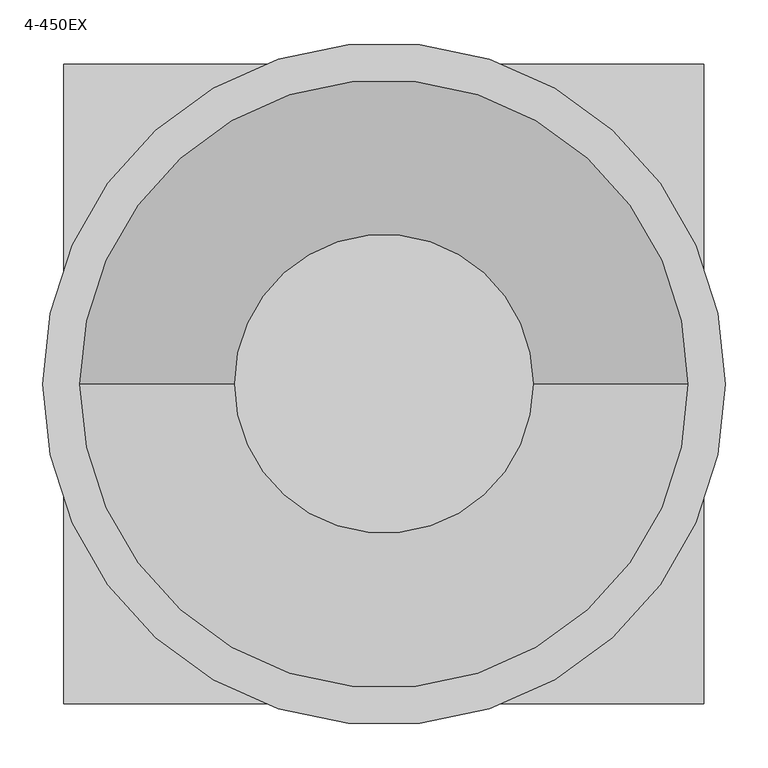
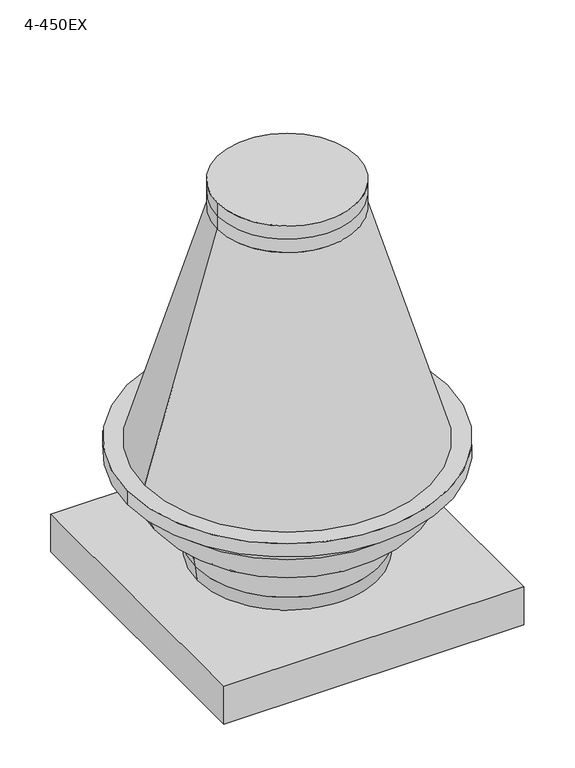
"""IFC4 building model written with IfcOpenShell, lengths in millimetres: unitary equipment geometry, VE-Wentylator-ParaForma-Harmann-VITT_EX-Wywiewny : 4-450EX."""

from ifc_helpers import new_model, si_unit, point, frame, origin, origin_2d, place, context, project, spatial, polyline, circle_curve, ellipse_curve, trimmed, segment, composite_curve, outline, extrude, faceted_brep, source, transform, mapped, element, save
from ifc_brep_helpers import plane_surface, cylinder_surface, revolved_surface, advanced_brep


def unitary_equipment_4_450ex_fb20e98b(model_context):
    return source(origin(), model_context, "Body", "SolidModel", [
        advanced_brep(
        [(-356.1, 0.0, 287.5), (356.1, 0.0, 287.5), (225.1, 0.0, 25.0), (-225.1, 0.0, 25.0), (-296.9, 0.0, 160.2), (-280.7, 0.0, 149.2), (280.7, 0.0, 149.2), (296.9, 0.0, 160.2), (-350.4, 0.0, 246.3), (350.4, 0.0, 246.3), (-228.5, 0.0, 61.0), (228.5, 0.0, 61.0)],
        [
            (0, 1, circle_curve(frame((0.0, 0.0, 287.5), z_axis=(0.0, 0.0, 1.0), x_axis=(1.0, 0.0, 0.0)), 356.1)),
            (1, 0, circle_curve(frame((0.0, 0.0, 287.5), z_axis=(0.0, 0.0, 1.0), x_axis=(1.0, 0.0, 0.0)), 356.1)),
            (2, 3, circle_curve(frame((0.0, 0.0, 25.0), z_axis=(0.0, 0.0, -1.0), x_axis=(1.0, 0.0, 0.0)), 225.1)),
            (3, 2, circle_curve(frame((0.0, 0.0, 25.0), z_axis=(0.0, 0.0, -1.0), x_axis=(1.0, 0.0, 0.0)), 225.1)),
            (4, 5),
            (5, 6, circle_curve(frame((0.0, 0.0, 149.2), z_axis=(0.0, 0.0, 1.0), x_axis=(1.0, 0.0, 0.0)), 280.7)),
            (6, 7),
            (7, 4, circle_curve(frame((0.0, 0.0, 160.2), z_axis=(0.0, 0.0, -1.0), x_axis=(1.0, 0.0, 0.0)), 296.9)),
            (4, 7, circle_curve(frame((0.0, 0.0, 160.2), z_axis=(0.0, 0.0, -1.0), x_axis=(1.0, 0.0, 0.0)), 296.9)),
            (6, 5, circle_curve(frame((0.0, 0.0, 149.2), z_axis=(0.0, 0.0, 1.0), x_axis=(1.0, 0.0, 0.0)), 280.7)),
            (0, 8),
            (8, 9, circle_curve(frame((0.0, 0.0, 246.3), z_axis=(0.0, 0.0, 1.0), x_axis=(1.0, 0.0, 0.0)), 350.4)),
            (9, 1),
            (9, 8, circle_curve(frame((0.0, 0.0, 246.3), z_axis=(0.0, 0.0, 1.0), x_axis=(1.0, 0.0, 0.0)), 350.4)),
            (10, 3),
            (2, 11),
            (11, 10, circle_curve(frame((0.0, 0.0, 61.0), z_axis=(0.0, 0.0, -1.0), x_axis=(1.0, 0.0, 0.0)), 228.5)),
            (10, 11, circle_curve(frame((0.0, 0.0, 61.0), z_axis=(0.0, 0.0, -1.0), x_axis=(1.0, 0.0, 0.0)), 228.5)),
            (5, 10, circle_curve(frame((-348.2985678, 0.0, 49.6457456), z_axis=(0.0, 1.0, 0.0), x_axis=(1.0, 0.0, 0.0)), 120.335431)),
            (11, 6, circle_curve(frame((348.2985678, 0.0, 49.6457456), z_axis=(0.0, 1.0, 0.0), x_axis=(-1.0, 0.0, 0.0)), 120.335431)),
            (7, 9, circle_curve(frame((226.8099241, 0.0, 263.4235663), z_axis=(0.0, -1.0, 0.0), x_axis=(-1.0, 0.0, 0.0)), 124.7706832)),
            (8, 4, circle_curve(frame((-226.8099241, 0.0, 263.4235663), z_axis=(0.0, -1.0, 0.0), x_axis=(1.0, 0.0, 0.0)), 124.7706832)),
        ],
        [
            plane_surface(frame((0.0, 0.0, 287.5), z_axis=(0.0, 0.0, 1.0), x_axis=(0.0, -1.0, 0.0))),
            plane_surface(frame((0.0, 0.0, 25.0), z_axis=(0.0, 0.0, -1.0), x_axis=(0.0, -1.0, 0.0))),
            revolved_surface(polyline([(296.9, 0.0, 160.2), (280.7, 0.0, 149.2)]), (0.0, 0.0, 25.0), (0.0, 0.0, -1.0)),
            revolved_surface(polyline([(356.1, 0.0, 287.5), (350.4, 0.0, 246.3)]), (0.0, 0.0, 25.0), (0.0, 0.0, -1.0)),
            revolved_surface(polyline([(228.5, 0.0, 61.0), (225.1, 0.0, 25.0)]), (0.0, 0.0, 25.0), (0.0, 0.0, -1.0)),
            revolved_surface(trimmed(ellipse_curve(frame((348.2985678, 0.0, 49.6457456), z_axis=(0.0, -1.0, 0.0), x_axis=(-1.0, 0.0, 0.0)), 120.335431, 120.335431), [point((280.7, 0.0, 149.2))], [point((228.5, 0.0, 61.0))], True, "CARTESIAN"), (0.0, 0.0, 25.0), (0.0, 0.0, -1.0)),
            revolved_surface(trimmed(ellipse_curve(frame((226.8099241, 0.0, 263.4235663), z_axis=(0.0, 1.0, 0.0), x_axis=(-1.0, 0.0, 0.0)), 124.7706832, 124.7706832), [point((350.4, 0.0, 246.3))], [point((296.9, 0.0, 160.2))], True, "CARTESIAN"), (0.0, 0.0, 25.0), (0.0, 0.0, -1.0)),
        ],
        [
            (0, [[1, 2]]),
            (1, [[3, 4]]),
            (2, [[5, 6, 7, 8]]),
            (2, [[-5, 9, -7, 10]]),
            (3, [[11, 12, 13, -1]]),
            (3, [[-11, -2, -13, 14]]),
            (4, [[15, -3, 16, 17]]),
            (4, [[-15, 18, -16, -4]]),
            (5, [[-6, 19, -17, 20]]),
            (5, [[-10, -20, -18, -19]]),
            (6, [[-8, 21, -12, 22]]),
            (6, [[-9, -22, -14, -21]]),
        ],
    ),
        advanced_brep(
        [(-356.25, 0.0, 322.5), (356.25, 0.0, 322.5), (175.0, 0.0, 935.0), (-175.0, 0.0, 935.0), (-175.0, 0.0, 970.0), (175.0, 0.0, 970.0), (-175.0, 0.0, 1005.0), (175.0, 0.0, 1005.0)],
        [
            (0, 1, circle_curve(frame((0.0, 0.0, 322.5), z_axis=(0.0, 0.0, -1.0), x_axis=(1.0, 0.0, 0.0)), 356.25)),
            (1, 0, circle_curve(frame((0.0, 0.0, 322.5), z_axis=(0.0, 0.0, -1.0), x_axis=(-1.0, 0.0, 0.0)), 356.25)),
            (1, 2),
            (2, 3, circle_curve(frame((0.0, 0.0, 935.0), z_axis=(0.0, 0.0, -1.0), x_axis=(-1.0, 0.0, 0.0)), 175.0)),
            (3, 0),
            (3, 2, circle_curve(frame((0.0, 0.0, 935.0), z_axis=(0.0, 0.0, -1.0), x_axis=(1.0, 0.0, 0.0)), 175.0)),
            (3, 4),
            (4, 5, circle_curve(frame((0.0, 0.0, 970.0), z_axis=(0.0, 0.0, -1.0), x_axis=(1.0, 0.0, 0.0)), 175.0)),
            (5, 2),
            (5, 4, circle_curve(frame((0.0, 0.0, 970.0), z_axis=(0.0, 0.0, -1.0), x_axis=(1.0, 0.0, 0.0)), 175.0)),
            (6, 7, circle_curve(frame((0.0, 0.0, 1005.0), z_axis=(0.0, 0.0, 1.0), x_axis=(1.0, 0.0, 0.0)), 175.0)),
            (7, 6, circle_curve(frame((0.0, 0.0, 1005.0), z_axis=(0.0, 0.0, 1.0), x_axis=(1.0, 0.0, 0.0)), 175.0)),
            (7, 5),
            (4, 6),
        ],
        [
            plane_surface(frame((0.0, 0.0, 322.5), z_axis=(0.0, 0.0, -1.0), x_axis=(0.0, -1.0, 0.0))),
            revolved_surface(polyline([(-174.99999999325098, 0.0, 935.0), (-356.25, 0.0, 322.5)]), (0.0, 0.0, 1526.3793103), (0.0, 0.0, -1.0)),
            revolved_surface(polyline([(174.99999999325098, 0.0, 935.0), (356.25, 0.0, 322.5)]), (0.0, 0.0, 1526.3793103), (0.0, 0.0, -1.0)),
            cylinder_surface(frame((0.0, 0.0, 935.0), z_axis=(0.0, 0.0, -1.0), x_axis=(1.0, 0.0, 0.0)), 175.0),
            plane_surface(frame((0.0, 0.0, 1005.0), z_axis=(0.0, 0.0, 1.0), x_axis=(0.0, 1.0, 0.0))),
        ],
        [
            (0, [[1, 2]]),
            (1, [[-2, 3, 4, 5]]),
            (2, [[-1, -5, 6, -3]]),
            (3, [[7, 8, 9, -6]]),
            (3, [[-7, -4, -9, 10]]),
            (4, [[11, 12]]),
            (3, [[-12, 13, -8, 14]]),
            (3, [[-11, -14, -10, -13]]),
        ],
    ),
        faceted_brep([(350.0, -350.0, -75.0), (350.0, -350.0, 0.0), (350.0, 350.0, 0.0), (350.0, 350.0, -75.0), (375.0, -375.0, 25.0), (375.0, -375.0, -75.0), (375.0, 375.0, -75.0), (375.0, 375.0, 25.0), (-350.0, 350.0, 0.0), (-350.0, 350.0, -75.0), (-375.0, 375.0, -75.0), (-375.0, 375.0, 25.0), (-350.0, -350.0, 0.0), (-350.0, -350.0, -75.0), (-375.0, -375.0, -75.0), (-375.0, -375.0, 25.0)], [[[0, 1, 2, 3]], [[4, 5, 6, 7]], [[3, 2, 8, 9]], [[7, 6, 10, 11]], [[9, 8, 12, 13]], [[11, 10, 14, 15]], [[7, 11, 15, 4]], [[1, 12, 8, 2]], [[13, 12, 1, 0]], [[5, 14, 10, 6], [3, 9, 13, 0]], [[15, 14, 5, 4]]]),
        extrude(outline(composite_curve([segment(trimmed(circle_curve(origin_2d(), 400.0), [point((-400.0, 0.0))], [point((400.0, 0.0))], False, "CARTESIAN"), True, "CONTINUOUS"), segment(trimmed(circle_curve(origin_2d(), 400.0), [point((400.0, 0.0))], [point((-400.0, 0.0))], False, "CARTESIAN"), True, "CONTINUOUS")], self_intersect=False)), frame((0.0, 0.0, 287.5), z_axis=(0.0, 0.0, 1.0), x_axis=(1.0, 0.0, 0.0)), (0.0, 0.0, 1.0), 35.0),
    ])


if __name__ == "__main__":
    model = new_model("IFC4")
    model_context = context("Model", 3, world=origin())
    ifc_project = project(units=[si_unit("LENGTHUNIT", "METRE", prefix="MILLI")], contexts=[model_context])
    site = spatial("IfcSite", under=ifc_project)
    building = spatial("IfcBuilding", under=site)
    placement = place(None, origin())
    unitary_equipment_4_450ex_shape = unitary_equipment_4_450ex_fb20e98b(model_context)
    element("IfcUnitaryEquipment", 1, ObjectType="VE-Wentylator-ParaForma-Harmann-VITT_EX-Wywiewny : 4-450EX", at=placement, inside=building, context=model_context, shape_type="MappedRepresentation", body=[
        mapped(unitary_equipment_4_450ex_shape, transform((0.0, 0.0, 0.0), x_axis=(1.0, 0.0, 0.0), y_axis=(0.0, 1.0, 0.0), z_axis=(0.0, 0.0, 1.0))),
    ])
    save(model, "model.ifc")
